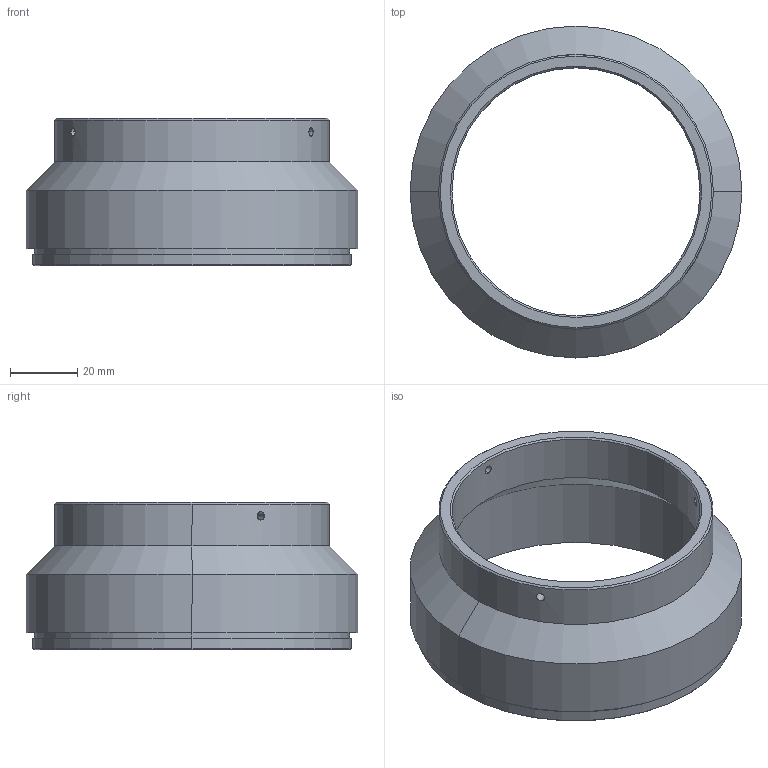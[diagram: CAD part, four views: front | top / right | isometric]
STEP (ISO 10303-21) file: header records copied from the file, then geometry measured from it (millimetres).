
FILE_DESCRIPTION (( 'STEP AP214' ), '1' );
FILE_NAME ('CA-V74M95-9.4.STEP', '2026-02-25T02:56:46', ( '' ), ( '' ), 'SwSTEP 2.0', 'SolidWorks 2025', '' );
FILE_SCHEMA (( 'AUTOMOTIVE_DESIGN' ));
Length unit declared in the file: millimetre
Products named in the file (1): CA-V74M95-9.4
Bounding box: 99 x 99 x 43.9 mm (x, y, z)
Volume: 51615.6 mm3; surface area: 28483.5 mm2
Topology: 1 solids, 1 shells, 32 faces, 70 edges, 42 vertices
Faces by surface type: cylinder 18, cone 10, plane 4
Entity records: 1115 total; most frequent: CARTESIAN_POINT 373, DIRECTION 154, ORIENTED_EDGE 140, EDGE_CURVE 70, AXIS2_PLACEMENT_3D 63, VERTEX_POINT 42, EDGE_LOOP 42, ADVANCED_FACE 32
